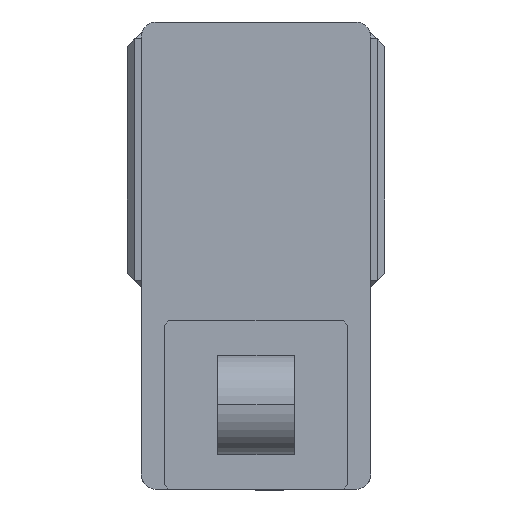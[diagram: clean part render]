
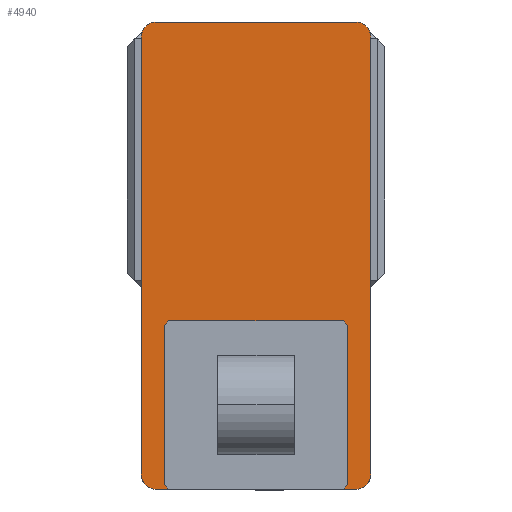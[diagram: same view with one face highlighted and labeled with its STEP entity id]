
A CAD part, left-side view. The second image highlights one B-rep face of the part: STEP entity #4940.
In plain terms, the highlighted planar face has unit normal (-1, 0, 0) as drawn and (0, 0, 1) by its records, which use the part's own axes.
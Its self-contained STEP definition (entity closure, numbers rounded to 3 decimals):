
#240 = CARTESIAN_POINT ( 'NONE',  ( 65., 142.5, 105. ) ) ;
#359 = PLANE ( 'NONE',  #2269 ) ;
#479 = VECTOR ( 'NONE', #3159, 1000. ) ;
#617 = VERTEX_POINT ( 'NONE', #5985 ) ;
#866 = LINE ( 'NONE', #4970, #9721 ) ;
#934 = DIRECTION ( 'NONE',  ( 0., 0., 1. ) ) ;
#958 = CARTESIAN_POINT ( 'NONE',  ( -75., -142.5, 105. ) ) ;
#975 = CARTESIAN_POINT ( 'NONE',  ( -75., -152.5, 105. ) ) ;
#1090 = DIRECTION ( 'NONE',  ( 1., 0., 0. ) ) ;
#1129 = VERTEX_POINT ( 'NONE', #2925 ) ;
#1216 = ORIENTED_EDGE ( 'NONE', *, *, #3092, .T. ) ;
#1219 = DIRECTION ( 'NONE',  ( 1., 0., 0. ) ) ;
#1824 = ORIENTED_EDGE ( 'NONE', *, *, #2674, .T. ) ;
#1836 = DIRECTION ( 'NONE',  ( 1., 0., 0. ) ) ;
#2100 = DIRECTION ( 'NONE',  ( 0., 0., 1. ) ) ;
#2108 = AXIS2_PLACEMENT_3D ( 'NONE', #8389, #3257, #9240 ) ;
#2269 = AXIS2_PLACEMENT_3D ( 'NONE', #9767, #6374, #1219 ) ;
#2674 = EDGE_CURVE ( 'NONE', #9719, #1129, #8586, .T. ) ;
#2755 = CARTESIAN_POINT ( 'NONE',  ( -75., 152.5, 105. ) ) ;
#2925 = CARTESIAN_POINT ( 'NONE',  ( 65., -152.5, 105. ) ) ;
#3092 = EDGE_CURVE ( 'NONE', #10714, #9719, #8844, .T. ) ;
#3096 = VERTEX_POINT ( 'NONE', #4081 ) ;
#3159 = DIRECTION ( 'NONE',  ( 0., -1., 0. ) ) ;
#3257 = DIRECTION ( 'NONE',  ( 0., 0., 1. ) ) ;
#3344 = CIRCLE ( 'NONE', #4772, 10. ) ;
#3466 = EDGE_CURVE ( 'NONE', #3578, #617, #3344, .T. ) ;
#3578 = VERTEX_POINT ( 'NONE', #5514 ) ;
#3583 = ORIENTED_EDGE ( 'NONE', *, *, #7387, .T. ) ;
#3854 = ORIENTED_EDGE ( 'NONE', *, *, #4322, .T. ) ;
#4081 = CARTESIAN_POINT ( 'NONE',  ( 75., -142.5, 105. ) ) ;
#4204 = ORIENTED_EDGE ( 'NONE', *, *, #10515, .T. ) ;
#4322 = EDGE_CURVE ( 'NONE', #4723, #10714, #7324, .T. ) ;
#4451 = CARTESIAN_POINT ( 'NONE',  ( -65., 152.5, 105. ) ) ;
#4723 = VERTEX_POINT ( 'NONE', #8667 ) ;
#4772 = AXIS2_PLACEMENT_3D ( 'NONE', #240, #6245, #1090 ) ;
#4940 = ADVANCED_FACE ( 'NONE', ( #8260 ), #359, .T. ) ;
#4951 = ORIENTED_EDGE ( 'NONE', *, *, #3466, .T. ) ;
#4970 = CARTESIAN_POINT ( 'NONE',  ( 75., 152.5, 105. ) ) ;
#5505 = VERTEX_POINT ( 'NONE', #4451 ) ;
#5514 = CARTESIAN_POINT ( 'NONE',  ( 75., 142.5, 105. ) ) ;
#5985 = CARTESIAN_POINT ( 'NONE',  ( 65., 152.5, 105. ) ) ;
#6026 = ORIENTED_EDGE ( 'NONE', *, *, #8046, .T. ) ;
#6086 = CARTESIAN_POINT ( 'NONE',  ( -65., 142.5, 105. ) ) ;
#6245 = DIRECTION ( 'NONE',  ( 0., 0., 1. ) ) ;
#6374 = DIRECTION ( 'NONE',  ( 0., 0., 1. ) ) ;
#6384 = DIRECTION ( 'NONE',  ( -1., 0., 0. ) ) ;
#6450 = VECTOR ( 'NONE', #6384, 1000. ) ;
#6732 = CIRCLE ( 'NONE', #8898, 10. ) ;
#6950 = DIRECTION ( 'NONE',  ( 1., 0., 0. ) ) ;
#7230 = CARTESIAN_POINT ( 'NONE',  ( 65., -142.5, 105. ) ) ;
#7324 = LINE ( 'NONE', #9143, #479 ) ;
#7387 = EDGE_CURVE ( 'NONE', #5505, #4723, #7833, .T. ) ;
#7833 = CIRCLE ( 'NONE', #9049, 10. ) ;
#8046 = EDGE_CURVE ( 'NONE', #1129, #3096, #6732, .T. ) ;
#8065 = EDGE_CURVE ( 'NONE', #617, #5505, #10993, .T. ) ;
#8104 = DIRECTION ( 'NONE',  ( 1., 0., 0. ) ) ;
#8260 = FACE_OUTER_BOUND ( 'NONE', #10799, .T. ) ;
#8389 = CARTESIAN_POINT ( 'NONE',  ( -65., -142.5, 105. ) ) ;
#8586 = LINE ( 'NONE', #975, #10322 ) ;
#8667 = CARTESIAN_POINT ( 'NONE',  ( -75., 142.5, 105. ) ) ;
#8794 = CARTESIAN_POINT ( 'NONE',  ( -65., -152.5, 105. ) ) ;
#8844 = CIRCLE ( 'NONE', #2108, 10. ) ;
#8898 = AXIS2_PLACEMENT_3D ( 'NONE', #7230, #2100, #8104 ) ;
#9049 = AXIS2_PLACEMENT_3D ( 'NONE', #6086, #934, #6950 ) ;
#9143 = CARTESIAN_POINT ( 'NONE',  ( -75., 152.5, 105. ) ) ;
#9240 = DIRECTION ( 'NONE',  ( 1., 0., 0. ) ) ;
#9719 = VERTEX_POINT ( 'NONE', #8794 ) ;
#9721 = VECTOR ( 'NONE', #10099, 1000. ) ;
#9767 = CARTESIAN_POINT ( 'NONE',  ( 0., 0., 105. ) ) ;
#9941 = ORIENTED_EDGE ( 'NONE', *, *, #8065, .T. ) ;
#10099 = DIRECTION ( 'NONE',  ( 0., 1., 0. ) ) ;
#10322 = VECTOR ( 'NONE', #1836, 1000. ) ;
#10515 = EDGE_CURVE ( 'NONE', #3096, #3578, #866, .T. ) ;
#10714 = VERTEX_POINT ( 'NONE', #958 ) ;
#10799 = EDGE_LOOP ( 'NONE', ( #1824, #6026, #4204, #4951, #9941, #3583, #3854, #1216 ) ) ;
#10993 = LINE ( 'NONE', #2755, #6450 ) ;
